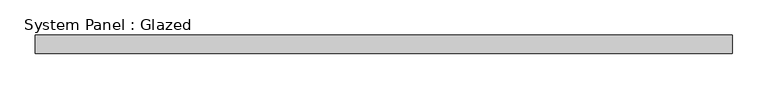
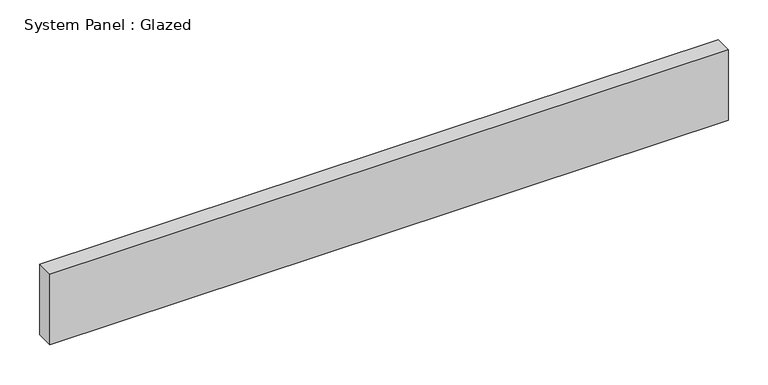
"""IFC4 building model written with IfcOpenShell, lengths in millimetres: plate geometry, System Panel : Glazed."""

from ifc_helpers import new_model, si_unit, origin, origin_with_axes, place, context, project, spatial, polyline, outline, extrude, source, transform, mapped, element, save


def system_panel_glazed_041fdfaf(model_context):
    return source(origin(), model_context, "Body", "SweptSolid", [
        extrude(outline(polyline([(490.9910714, 19.05), (-490.9910714, 19.05), (-490.9910714, 44.45), (490.9910714, 44.45), (490.9910714, 19.05)])), origin_with_axes(), (0.0, 0.0, 1.0), 107.8104781),
    ])


if __name__ == "__main__":
    model = new_model("IFC4")
    model_context = context("Model", 3, world=origin())
    ifc_project = project(units=[si_unit("LENGTHUNIT", "METRE", prefix="MILLI")], contexts=[model_context])
    site = spatial("IfcSite", under=ifc_project)
    building = spatial("IfcBuilding", under=site)
    placement = place(None, origin())
    system_panel_glazed_shape = system_panel_glazed_041fdfaf(model_context)
    element("IfcPlate", 1, ObjectType="System Panel : Glazed", at=placement, inside=building, context=model_context, shape_type="MappedRepresentation", body=[
        mapped(system_panel_glazed_shape, transform((0.0, 0.0, 0.0), x_axis=(1.0, 0.0, 0.0), y_axis=(0.0, 1.0, 0.0), z_axis=(0.0, 0.0, 1.0))),
    ])
    save(model, "model.ifc")
